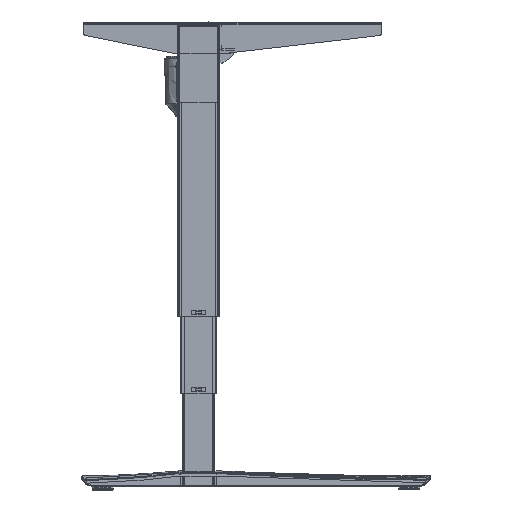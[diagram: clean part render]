
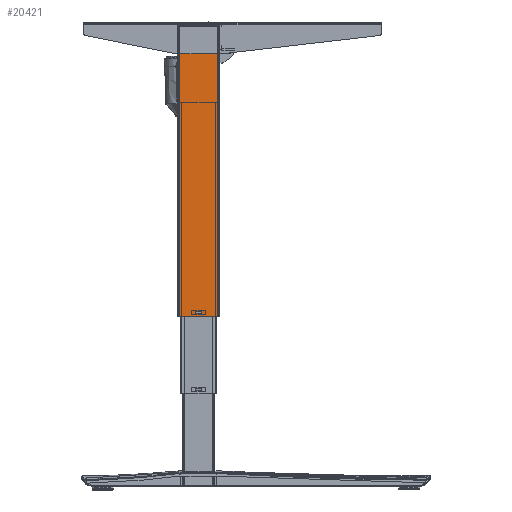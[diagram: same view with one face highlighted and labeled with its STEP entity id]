
A CAD part, left-side view. The second image highlights one B-rep face of the part: STEP entity #20421.
In plain terms, the highlighted planar face has unit normal (-1, 0, 0).
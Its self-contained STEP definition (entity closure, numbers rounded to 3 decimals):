
#2543 = ORIENTED_EDGE ( 'NONE', *, *, #15802, .T. ) ;
#3156 = CARTESIAN_POINT ( 'NONE',  ( -30., 37., 0. ) ) ;
#4238 = ORIENTED_EDGE ( 'NONE', *, *, #67753, .T. ) ;
#5713 = LINE ( 'NONE', #39831, #43787 ) ;
#13105 = VECTOR ( 'NONE', #44115, 1000. ) ;
#14387 = CARTESIAN_POINT ( 'NONE',  ( -30., 37., 561. ) ) ;
#15802 = EDGE_CURVE ( 'NONE', #24307, #21163, #40193, .T. ) ;
#16870 = VERTEX_POINT ( 'NONE', #46672 ) ;
#19399 = DIRECTION ( 'NONE',  ( 0., 0., 1. ) ) ;
#20421 = ADVANCED_FACE ( 'NONE', ( #101096, #38356 ), #92603, .F. ) ;
#20746 = CARTESIAN_POINT ( 'NONE',  ( -30., 6., 10. ) ) ;
#21163 = VERTEX_POINT ( 'NONE', #68451 ) ;
#22538 = CARTESIAN_POINT ( 'NONE',  ( -30., 37., 561. ) ) ;
#24095 = LINE ( 'NONE', #91232, #13105 ) ;
#24307 = VERTEX_POINT ( 'NONE', #29255 ) ;
#24412 = DIRECTION ( 'NONE',  ( 0., -1., 0. ) ) ;
#25123 = EDGE_CURVE ( 'NONE', #34642, #41714, #92129, .T. ) ;
#28030 = EDGE_CURVE ( 'NONE', #16870, #24307, #85637, .T. ) ;
#29255 = CARTESIAN_POINT ( 'NONE',  ( -30., -6., 10. ) ) ;
#30630 = EDGE_CURVE ( 'NONE', #46398, #16870, #47282, .T. ) ;
#33381 = CARTESIAN_POINT ( 'NONE',  ( -30., -37., 556. ) ) ;
#34039 = DIRECTION ( 'NONE',  ( 0., -1., 0. ) ) ;
#34642 = VERTEX_POINT ( 'NONE', #33381 ) ;
#35933 = ORIENTED_EDGE ( 'NONE', *, *, #47916, .T. ) ;
#36382 = VECTOR ( 'NONE', #66116, 1000. ) ;
#38356 = FACE_OUTER_BOUND ( 'NONE', #84055, .T. ) ;
#39277 = VERTEX_POINT ( 'NONE', #3156 ) ;
#39749 = CARTESIAN_POINT ( 'NONE',  ( -30., -37., 561. ) ) ;
#39831 = CARTESIAN_POINT ( 'NONE',  ( -30., 37., 0. ) ) ;
#40152 = ORIENTED_EDGE ( 'NONE', *, *, #30630, .T. ) ;
#40193 = LINE ( 'NONE', #89536, #96833 ) ;
#41714 = VERTEX_POINT ( 'NONE', #90979 ) ;
#42878 = VECTOR ( 'NONE', #55628, 1000. ) ;
#43787 = VECTOR ( 'NONE', #24412, 1000. ) ;
#44115 = DIRECTION ( 'NONE',  ( 0., 1., 0. ) ) ;
#46398 = VERTEX_POINT ( 'NONE', #90155 ) ;
#46672 = CARTESIAN_POINT ( 'NONE',  ( -30., 6., 10. ) ) ;
#47282 = LINE ( 'NONE', #20746, #75607 ) ;
#47654 = ORIENTED_EDGE ( 'NONE', *, *, #28030, .T. ) ;
#47916 = EDGE_CURVE ( 'NONE', #92453, #39277, #96215, .T. ) ;
#51361 = LINE ( 'NONE', #89050, #93162 ) ;
#52390 = EDGE_CURVE ( 'NONE', #92453, #34642, #51361, .T. ) ;
#54461 = VECTOR ( 'NONE', #69346, 1000. ) ;
#55628 = DIRECTION ( 'NONE',  ( 0., 0., -1. ) ) ;
#66116 = DIRECTION ( 'NONE',  ( 0., -1., 0. ) ) ;
#67753 = EDGE_CURVE ( 'NONE', #39277, #41714, #5713, .T. ) ;
#68451 = CARTESIAN_POINT ( 'NONE',  ( -30., -6., 6. ) ) ;
#68917 = DIRECTION ( 'NONE',  ( 0., 1., 0. ) ) ;
#69346 = DIRECTION ( 'NONE',  ( 0., 0., -1. ) ) ;
#71745 = AXIS2_PLACEMENT_3D ( 'NONE', #22538, #84711, #68917 ) ;
#74728 = ORIENTED_EDGE ( 'NONE', *, *, #92386, .T. ) ;
#75607 = VECTOR ( 'NONE', #19399, 1000. ) ;
#77132 = CARTESIAN_POINT ( 'NONE',  ( -30., 37., 556. ) ) ;
#84055 = EDGE_LOOP ( 'NONE', ( #91070, #100973, #35933, #4238 ) ) ;
#84711 = DIRECTION ( 'NONE',  ( 1., 0., 0. ) ) ;
#85637 = LINE ( 'NONE', #88782, #36382 ) ;
#88782 = CARTESIAN_POINT ( 'NONE',  ( -30., 6., 10. ) ) ;
#89050 = CARTESIAN_POINT ( 'NONE',  ( -30., 40., 556. ) ) ;
#89081 = EDGE_LOOP ( 'NONE', ( #40152, #47654, #2543, #74728 ) ) ;
#89536 = CARTESIAN_POINT ( 'NONE',  ( -30., -6., 10. ) ) ;
#89890 = DIRECTION ( 'NONE',  ( 0., 0., -1. ) ) ;
#90155 = CARTESIAN_POINT ( 'NONE',  ( -30., 6., 6. ) ) ;
#90979 = CARTESIAN_POINT ( 'NONE',  ( -30., -37., 0. ) ) ;
#91070 = ORIENTED_EDGE ( 'NONE', *, *, #25123, .F. ) ;
#91232 = CARTESIAN_POINT ( 'NONE',  ( -30., 6., 6. ) ) ;
#92129 = LINE ( 'NONE', #39749, #42878 ) ;
#92386 = EDGE_CURVE ( 'NONE', #21163, #46398, #24095, .T. ) ;
#92453 = VERTEX_POINT ( 'NONE', #77132 ) ;
#92603 = PLANE ( 'NONE',  #71745 ) ;
#93162 = VECTOR ( 'NONE', #34039, 1000. ) ;
#96215 = LINE ( 'NONE', #14387, #54461 ) ;
#96833 = VECTOR ( 'NONE', #89890, 1000. ) ;
#100973 = ORIENTED_EDGE ( 'NONE', *, *, #52390, .F. ) ;
#101096 = FACE_BOUND ( 'NONE', #89081, .T. ) ;
